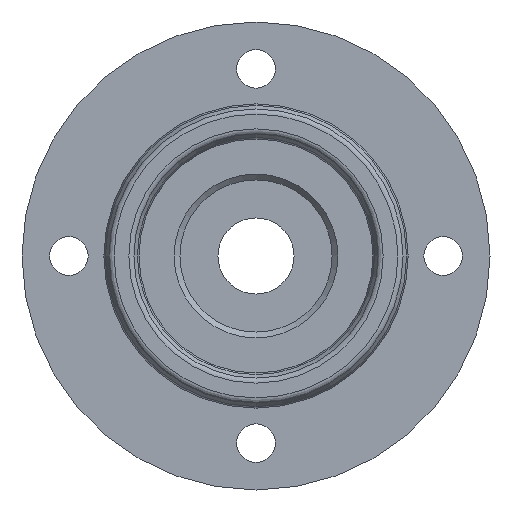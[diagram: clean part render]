
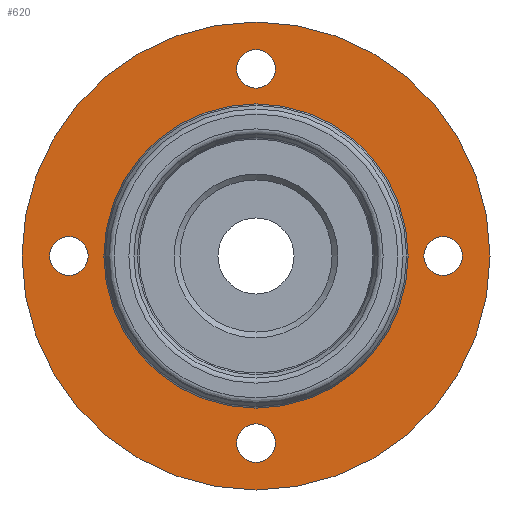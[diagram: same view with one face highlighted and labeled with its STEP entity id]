
A CAD part, left-side view. The second image highlights one B-rep face of the part: STEP entity #620.
In plain terms, the highlighted planar face has unit normal (-1, 0, 0).
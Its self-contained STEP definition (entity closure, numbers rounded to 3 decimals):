
#42=FACE_BOUND('',#205,.T.);
#43=FACE_BOUND('',#206,.T.);
#44=FACE_BOUND('',#207,.T.);
#45=FACE_BOUND('',#208,.T.);
#46=FACE_BOUND('',#209,.T.);
#50=CIRCLE('',#653,3.3);
#54=CIRCLE('',#660,3.3);
#58=CIRCLE('',#667,3.3);
#62=CIRCLE('',#674,3.3);
#97=CIRCLE('',#733,26.);
#98=CIRCLE('',#735,40.);
#110=PLANE('',#734);
#148=FACE_OUTER_BOUND('',#204,.T.);
#204=EDGE_LOOP('',(#551));
#205=EDGE_LOOP('',(#552));
#206=EDGE_LOOP('',(#553));
#207=EDGE_LOOP('',(#554));
#208=EDGE_LOOP('',(#555));
#209=EDGE_LOOP('',(#556));
#273=VERTEX_POINT('',#1041);
#277=VERTEX_POINT('',#1054);
#281=VERTEX_POINT('',#1067);
#285=VERTEX_POINT('',#1080);
#316=VERTEX_POINT('',#1184);
#317=VERTEX_POINT('',#1188);
#329=EDGE_CURVE('',#273,#273,#50,.T.);
#335=EDGE_CURVE('',#277,#277,#54,.T.);
#341=EDGE_CURVE('',#281,#281,#58,.T.);
#347=EDGE_CURVE('',#285,#285,#62,.T.);
#395=EDGE_CURVE('',#316,#316,#97,.T.);
#397=EDGE_CURVE('',#317,#317,#98,.T.);
#551=ORIENTED_EDGE('',*,*,#397,.F.);
#552=ORIENTED_EDGE('',*,*,#329,.T.);
#553=ORIENTED_EDGE('',*,*,#335,.T.);
#554=ORIENTED_EDGE('',*,*,#341,.T.);
#555=ORIENTED_EDGE('',*,*,#347,.T.);
#556=ORIENTED_EDGE('',*,*,#395,.T.);
#620=ADVANCED_FACE('',(#148,#42,#43,#44,#45,#46),#110,.T.);
#653=AXIS2_PLACEMENT_3D('',#1043,#758,#759);
#660=AXIS2_PLACEMENT_3D('',#1056,#774,#775);
#667=AXIS2_PLACEMENT_3D('',#1069,#790,#791);
#674=AXIS2_PLACEMENT_3D('',#1082,#806,#807);
#733=AXIS2_PLACEMENT_3D('',#1185,#937,#938);
#734=AXIS2_PLACEMENT_3D('',#1187,#940,#941);
#735=AXIS2_PLACEMENT_3D('',#1189,#942,#943);
#758=DIRECTION('center_axis',(1.,0.,0.));
#759=DIRECTION('ref_axis',(0.,-1.,0.));
#774=DIRECTION('center_axis',(1.,0.,0.));
#775=DIRECTION('ref_axis',(0.,0.,1.));
#790=DIRECTION('center_axis',(1.,0.,0.));
#791=DIRECTION('ref_axis',(0.,1.,0.));
#806=DIRECTION('center_axis',(1.,0.,0.));
#807=DIRECTION('ref_axis',(0.,0.,-1.));
#937=DIRECTION('center_axis',(1.,0.,0.));
#938=DIRECTION('ref_axis',(0.,0.,-1.));
#940=DIRECTION('center_axis',(-1.,0.,0.));
#941=DIRECTION('ref_axis',(0.,0.,1.));
#942=DIRECTION('center_axis',(1.,0.,0.));
#943=DIRECTION('ref_axis',(0.,0.,-1.));
#1041=CARTESIAN_POINT('',(212.,35.3,0.));
#1043=CARTESIAN_POINT('Origin',(212.,32.,0.));
#1054=CARTESIAN_POINT('',(212.,0.,-35.3));
#1056=CARTESIAN_POINT('Origin',(212.,0.,-32.));
#1067=CARTESIAN_POINT('',(212.,-35.3,0.));
#1069=CARTESIAN_POINT('Origin',(212.,-32.,0.));
#1080=CARTESIAN_POINT('',(212.,0.,35.3));
#1082=CARTESIAN_POINT('Origin',(212.,0.,32.));
#1184=CARTESIAN_POINT('',(212.,-26.,0.));
#1185=CARTESIAN_POINT('Origin',(212.,0.,0.));
#1187=CARTESIAN_POINT('Origin',(212.,40.,0.));
#1188=CARTESIAN_POINT('',(212.,-40.,0.));
#1189=CARTESIAN_POINT('Origin',(212.,0.,0.));
